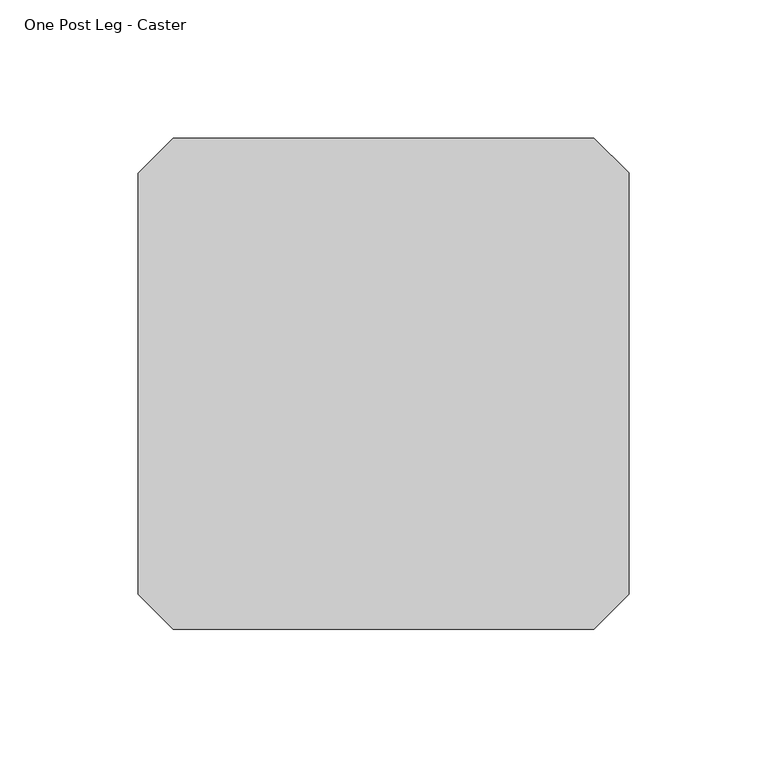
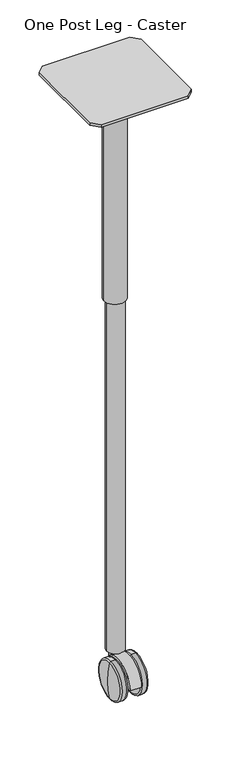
"""IFC4 building model written with IfcOpenShell, lengths in millimetres: furniture geometry, Steelcase - Groupwork - Table Leg - Post - Adjustable : One Post Leg - Caster."""

from ifc_helpers import new_model, si_unit, point, frame, frame_2d, origin, place, context, project, spatial, polyline, circle_curve, ellipse_curve, trimmed, segment, composite_curve, outline, extrude, source, transform, mapped, element, save
from ifc_brep_helpers import plane_surface, cylinder_surface, revolved_surface, advanced_brep


def one_post_leg_caster_7bd2f1b1(model_context):
    return source(origin(), model_context, "Body", "SolidModel", [
        extrude(outline(polyline([(88.8999907, -92.0423469), (76.2000028, -104.7423348), (-76.2000028, -104.7423348), (-88.9000032, -92.0423469), (-88.9000032, 60.3576588), (-76.2000028, 73.0576592), (76.2000028, 73.0576592), (88.8999907, 60.4556951), (88.8999907, -92.0423469)])), frame((0.0, 0.0, 1113.0939814), z_axis=(0.0, 0.0, 1.0), x_axis=(1.0, 0.0, 0.0)), (0.0, 0.0, 1.0), 4.5060186),
        extrude(outline(composite_curve([segment(trimmed(circle_curve(frame_2d((-0.2500277, -14.7678046)), 19.05), [point((-19.3000277, -14.7678046))], [point((18.7999723, -14.7678046))], False, "CARTESIAN"), True, "CONTINUOUS"), segment(trimmed(circle_curve(frame_2d((-0.2500277, -14.7678046)), 19.05), [point((18.7999723, -14.7678046))], [point((-19.3000277, -14.7678046))], False, "CARTESIAN"), True, "CONTINUOUS")], self_intersect=False), holes=[composite_curve([segment(trimmed(circle_curve(frame_2d((-0.1070578, -14.7678046)), 16.7347744), [point((-16.8418322, -14.7678046))], [point((16.6277167, -14.7678046))], True, "CARTESIAN"), True, "CONTINUOUS"), segment(trimmed(circle_curve(frame_2d((-0.1070578, -14.7678046)), 16.7347744), [point((16.6277167, -14.7678046))], [point((-16.8418322, -14.7678046))], True, "CARTESIAN"), True, "CONTINUOUS")], self_intersect=False)]), frame((0.0, 0.0, 718.439), z_axis=(0.0, 0.0, 1.0), x_axis=(1.0, 0.0, 0.0)), (0.0, 0.0, 1.0), 394.6549814),
        advanced_brep(
        [(-11.4827204, -39.9411002, 2.2405885), (-11.4827204, -39.9411002, 67.7519755), (-11.4827204, -39.9411002, 34.996282), (-13.6490633, -39.9411002, 0.0742455), (-13.6490633, -39.9411002, 69.9183184), (-21.5027885, -39.9411002, 0.0742455), (-21.5027885, -39.9411002, 69.9183184), (-24.0371277, -39.9411002, 1.9932216), (-24.0371277, -39.9411002, 67.9993423), (-28.027544, -39.9411002, 34.996282)],
        [
            (0, 1, circle_curve(frame((-11.4827204, -39.9411002, 34.996282), z_axis=(1.0, 0.0, 0.0), x_axis=(0.0, 0.0, 1.0)), 32.7556935)),
            (1, 2),
            (2, 0),
            (1, 0, circle_curve(frame((-11.4827204, -39.9411002, 34.996282), z_axis=(1.0, 0.0, 0.0), x_axis=(0.0, 0.0, 1.0)), 32.7556935)),
            (3, 4, circle_curve(frame((-13.6490633, -39.9411002, 34.996282), z_axis=(1.0, 0.0, 0.0), x_axis=(0.0, 0.0, 1.0)), 34.9220364)),
            (4, 1, circle_curve(frame((-13.6490633, -39.9411002, 67.7519755), z_axis=(0.0, 1.0, 0.0), x_axis=(1.0, 0.0, 0.0)), 2.1663429)),
            (0, 3, circle_curve(frame((-13.6490633, -39.9411002, 2.2405885), z_axis=(0.0, 1.0, 0.0), x_axis=(1.0, 0.0, 0.0)), 2.1663429)),
            (4, 3, circle_curve(frame((-13.6490633, -39.9411002, 34.996282), z_axis=(1.0, 0.0, 0.0), x_axis=(0.0, 0.0, 1.0)), 34.9220364)),
            (5, 6, circle_curve(frame((-21.5027885, -39.9411002, 34.996282), z_axis=(1.0, 0.0, 0.0), x_axis=(0.0, 0.0, 1.0)), 34.9220364)),
            (6, 4),
            (3, 5),
            (6, 5, circle_curve(frame((-21.5027885, -39.9411002, 34.996282), z_axis=(1.0, 0.0, 0.0), x_axis=(0.0, 0.0, 1.0)), 34.9220364)),
            (7, 8, circle_curve(frame((-24.0371277, -39.9411002, 34.996282), z_axis=(1.0, 0.0, 0.0), x_axis=(0.0, 0.0, 1.0)), 33.0030604)),
            (8, 6, circle_curve(frame((-21.5027885, -39.9411002, 67.285314), z_axis=(0.0, 1.0, 0.0), x_axis=(1.0, 0.0, 0.0)), 2.6330044)),
            (5, 7, circle_curve(frame((-21.5027885, -39.9411002, 2.7072499), z_axis=(0.0, 1.0, 0.0), x_axis=(1.0, 0.0, 0.0)), 2.6330044)),
            (8, 7, circle_curve(frame((-24.0371277, -39.9411002, 34.996282), z_axis=(1.0, 0.0, 0.0), x_axis=(0.0, 0.0, 1.0)), 33.0030604)),
            (9, 8, circle_curve(frame((80.0645768, -39.9411002, 38.6695822), z_axis=(0.0, 1.0, 0.0), x_axis=(1.0, 0.0, 0.0)), 108.1545178)),
            (7, 9, circle_curve(frame((80.0645768, -39.9411002, 31.3229818), z_axis=(0.0, 1.0, 0.0), x_axis=(1.0, 0.0, 0.0)), 108.1545178)),
        ],
        [
            plane_surface(frame((-11.4827204, -39.9411002, 34.996282), z_axis=(1.0, 0.0, 0.0), x_axis=(0.0, 0.0, 1.0))),
            revolved_surface(trimmed(ellipse_curve(frame((-13.6490633, -39.9411002, 67.7519755), z_axis=(0.0, -1.0, 0.0), x_axis=(1.0, 0.0, 0.0)), 2.1663429, 2.1663429), [point((-11.4827204, -39.9411002, 67.7519755))], [point((-13.6490633, -39.9411002, 69.9183184))], True, "CARTESIAN"), (-26.2760059, -39.9411002, 34.996282), (-1.0, 0.0, 0.0)),
            cylinder_surface(frame((-26.2760059, -39.9411002, 34.996282), z_axis=(-1.0, 0.0, 0.0), x_axis=(0.0, 0.0, 1.0)), 34.9220364),
            revolved_surface(trimmed(ellipse_curve(frame((-21.5027885, -39.9411002, 67.285314), z_axis=(0.0, -1.0, 0.0), x_axis=(1.0, 0.0, 0.0)), 2.6330044, 2.6330044), [point((-21.5027885, -39.9411002, 69.9183184))], [point((-24.0371277, -39.9411002, 67.9993423))], True, "CARTESIAN"), (-26.2760059, -39.9411002, 34.996282), (-1.0, 0.0, 0.0)),
            revolved_surface(trimmed(ellipse_curve(frame((80.0645768, -39.9411002, 38.6695822), z_axis=(0.0, -1.0, 0.0), x_axis=(1.0, 0.0, 0.0)), 108.1545178, 108.1545178), [point((-24.0371277, -39.9411002, 67.9993423))], [point((-28.027544, -39.9411002, 34.996282))], True, "CARTESIAN"), (-26.2760059, -39.9411002, 34.996282), (-1.0, 0.0, 0.0)),
        ],
        [
            (0, [[1, 2, 3]]),
            (0, [[4, -3, -2]]),
            (1, [[5, 6, -1, 7]]),
            (1, [[8, -7, -4, -6]]),
            (2, [[9, 10, -5, 11]]),
            (2, [[12, -11, -8, -10]]),
            (3, [[13, 14, -9, 15]]),
            (3, [[16, -15, -12, -14]]),
            (4, [[17, -13, 18]]),
            (4, [[-18, -16, -17]]),
        ],
    ),
        advanced_brep(
        [(24.0371277, -39.9411002, 1.9932216), (24.0371277, -39.9411002, 67.9993423), (28.027544, -39.9411002, 34.996282), (21.5027885, -39.9411002, 0.0742455), (21.5027885, -39.9411002, 69.9183184), (13.6490633, -39.9411002, 0.0742455), (13.6490633, -39.9411002, 69.9183184), (11.4827204, -39.9411002, 2.2405885), (11.4827204, -39.9411002, 67.7519755), (11.4827204, -39.9411002, 34.996282)],
        [
            (0, 1, circle_curve(frame((24.0371277, -39.9411002, 34.996282), z_axis=(1.0, 0.0, 0.0), x_axis=(0.0, 0.0, 1.0)), 33.0030604)),
            (1, 2, circle_curve(frame((-80.0645768, -39.9411002, 38.6695822), z_axis=(0.0, 1.0, 0.0), x_axis=(-1.0, 0.0, 0.0)), 108.1545178)),
            (2, 0, circle_curve(frame((-80.0645768, -39.9411002, 31.3229818), z_axis=(0.0, 1.0, 0.0), x_axis=(-1.0, 0.0, 0.0)), 108.1545178)),
            (1, 0, circle_curve(frame((24.0371277, -39.9411002, 34.996282), z_axis=(1.0, 0.0, 0.0), x_axis=(0.0, 0.0, 1.0)), 33.0030604)),
            (3, 4, circle_curve(frame((21.5027885, -39.9411002, 34.996282), z_axis=(1.0, 0.0, 0.0), x_axis=(0.0, 0.0, 1.0)), 34.9220364)),
            (4, 1, circle_curve(frame((21.5027885, -39.9411002, 67.285314), z_axis=(0.0, 1.0, 0.0), x_axis=(-1.0, 0.0, 0.0)), 2.6330044)),
            (0, 3, circle_curve(frame((21.5027885, -39.9411002, 2.7072499), z_axis=(0.0, 1.0, 0.0), x_axis=(-1.0, 0.0, 0.0)), 2.6330044)),
            (4, 3, circle_curve(frame((21.5027885, -39.9411002, 34.996282), z_axis=(1.0, 0.0, 0.0), x_axis=(0.0, 0.0, 1.0)), 34.9220364)),
            (5, 6, circle_curve(frame((13.6490633, -39.9411002, 34.996282), z_axis=(1.0, 0.0, 0.0), x_axis=(0.0, 0.0, 1.0)), 34.9220364)),
            (6, 4),
            (3, 5),
            (6, 5, circle_curve(frame((13.6490633, -39.9411002, 34.996282), z_axis=(1.0, 0.0, 0.0), x_axis=(0.0, 0.0, 1.0)), 34.9220364)),
            (7, 8, circle_curve(frame((11.4827204, -39.9411002, 34.996282), z_axis=(1.0, 0.0, 0.0), x_axis=(0.0, 0.0, 1.0)), 32.7556935)),
            (8, 6, circle_curve(frame((13.6490633, -39.9411002, 67.7519755), z_axis=(0.0, 1.0, 0.0), x_axis=(-1.0, 0.0, 0.0)), 2.1663429)),
            (5, 7, circle_curve(frame((13.6490633, -39.9411002, 2.2405885), z_axis=(0.0, 1.0, 0.0), x_axis=(-1.0, 0.0, 0.0)), 2.1663429)),
            (8, 7, circle_curve(frame((11.4827204, -39.9411002, 34.996282), z_axis=(1.0, 0.0, 0.0), x_axis=(0.0, 0.0, 1.0)), 32.7556935)),
            (9, 8),
            (7, 9),
        ],
        [
            revolved_surface(trimmed(ellipse_curve(frame((-80.0645768, -39.9411002, 38.6695822), z_axis=(0.0, -1.0, 0.0), x_axis=(-1.0, 0.0, 0.0)), 108.1545178, 108.1545178), [point((28.027544, -39.9411002, 34.996282))], [point((24.0371277, -39.9411002, 67.9993423))], True, "CARTESIAN"), (-26.2760059, -39.9411002, 34.996282), (-1.0, 0.0, 0.0)),
            revolved_surface(trimmed(ellipse_curve(frame((21.5027885, -39.9411002, 67.285314), z_axis=(0.0, -1.0, 0.0), x_axis=(-1.0, 0.0, 0.0)), 2.6330044, 2.6330044), [point((24.0371277, -39.9411002, 67.9993423))], [point((21.5027885, -39.9411002, 69.9183184))], True, "CARTESIAN"), (-26.2760059, -39.9411002, 34.996282), (-1.0, 0.0, 0.0)),
            cylinder_surface(frame((-26.2760059, -39.9411002, 34.996282), z_axis=(-1.0, 0.0, 0.0), x_axis=(0.0, 0.0, 1.0)), 34.9220364),
            revolved_surface(trimmed(ellipse_curve(frame((13.6490633, -39.9411002, 67.7519755), z_axis=(0.0, -1.0, 0.0), x_axis=(-1.0, 0.0, 0.0)), 2.1663429, 2.1663429), [point((13.6490633, -39.9411002, 69.9183184))], [point((11.4827204, -39.9411002, 67.7519755))], True, "CARTESIAN"), (-26.2760059, -39.9411002, 34.996282), (-1.0, 0.0, 0.0)),
            plane_surface(frame((11.4827204, -39.9411002, 34.996282), z_axis=(-1.0, 0.0, 0.0), x_axis=(0.0, 0.0, 1.0))),
        ],
        [
            (0, [[1, 2, 3]]),
            (0, [[4, -3, -2]]),
            (1, [[5, 6, -1, 7]]),
            (1, [[8, -7, -4, -6]]),
            (2, [[9, 10, -5, 11]]),
            (2, [[12, -11, -8, -10]]),
            (3, [[13, 14, -9, 15]]),
            (3, [[16, -15, -12, -14]]),
            (4, [[17, -13, 18]]),
            (4, [[-18, -16, -17]]),
        ],
    ),
        extrude(outline(composite_curve([segment(trimmed(circle_curve(frame_2d((-39.878, 33.5852125)), 37.5031), [point((-77.3811, 33.5852125))], [point((-2.3749, 33.5852125))], False, "CARTESIAN"), True, "CONTINUOUS"), segment(polyline([(-2.3749, 33.5852125), (-77.3811, 33.5852125)]), True, "CONTINUOUS")], self_intersect=False)), frame((-9.8317204, 0.0, 0.0), z_axis=(1.0, 0.0, 0.0), x_axis=(0.0, 1.0, 0.0)), (0.0, 0.0, 1.0), 19.685),
        advanced_brep(
        [(0.0, -25.7219599, 42.7546125), (0.0, -6.0280401, 42.7546125), (0.0, -15.875, 42.7546125), (0.0, -25.7219599, 93.5546125), (0.0, -6.0280401, 93.5546125), (0.0, -15.875, 93.5546125)],
        [
            (0, 1, circle_curve(frame((0.0, -15.875, 42.7546125), z_axis=(0.0, 0.0, -1.0), x_axis=(0.0, 1.0, 0.0)), 9.8469599)),
            (1, 2),
            (2, 0),
            (1, 0, circle_curve(frame((0.0, -15.875, 42.7546125), z_axis=(0.0, 0.0, -1.0), x_axis=(0.0, 1.0, 0.0)), 9.8469599)),
            (3, 4, circle_curve(frame((0.0, -15.875, 93.5546125), z_axis=(0.0, 0.0, -1.0), x_axis=(0.0, 1.0, 0.0)), 9.8469599)),
            (4, 1),
            (0, 3),
            (4, 3, circle_curve(frame((0.0, -15.875, 93.5546125), z_axis=(0.0, 0.0, -1.0), x_axis=(0.0, 1.0, 0.0)), 9.8469599)),
            (5, 4),
            (3, 5),
        ],
        [
            plane_surface(frame((0.0, -15.875, 42.7546125), z_axis=(0.0, 0.0, -1.0), x_axis=(0.0, 1.0, 0.0))),
            cylinder_surface(frame((0.0, -15.875, 92.8785885), z_axis=(0.0, 0.0, 1.0), x_axis=(0.0, 1.0, 0.0)), 9.8469599),
            plane_surface(frame((0.0, -15.875, 93.5546125), z_axis=(0.0, 0.0, 1.0), x_axis=(0.0, 1.0, 0.0))),
        ],
        [
            (0, [[1, 2, 3]]),
            (0, [[4, -3, -2]]),
            (1, [[5, 6, -1, 7]]),
            (1, [[8, -7, -4, -6]]),
            (2, [[9, -5, 10]]),
            (2, [[-10, -8, -9]]),
        ],
    ),
        extrude(outline(composite_curve([segment(trimmed(circle_curve(frame_2d((0.0, -15.7933259)), 15.24), [point((-15.24, -15.7933259))], [point((15.24, -15.7933259))], False, "CARTESIAN"), True, "CONTINUOUS"), segment(trimmed(circle_curve(frame_2d((0.0, -15.7933259)), 15.24), [point((15.24, -15.7933259))], [point((-15.24, -15.7933259))], False, "CARTESIAN"), True, "CONTINUOUS")], self_intersect=False), holes=[composite_curve([segment(trimmed(circle_curve(frame_2d((0.0, -15.7933259)), 13.7134307), [point((-13.7134307, -15.7933259))], [point((13.7134307, -15.7933259))], True, "CARTESIAN"), True, "CONTINUOUS"), segment(trimmed(circle_curve(frame_2d((0.0, -15.7933259)), 13.7134307), [point((13.7134307, -15.7933259))], [point((-13.7134307, -15.7933259))], True, "CARTESIAN"), True, "CONTINUOUS")], self_intersect=False)]), frame((0.0, 0.0, 71.6852125), z_axis=(0.0, 0.0, 1.0), x_axis=(1.0, 0.0, 0.0)), (0.0, 0.0, 1.0), 646.7537875),
    ])


if __name__ == "__main__":
    model = new_model("IFC4")
    model_context = context("Model", 3, world=origin())
    ifc_project = project(units=[si_unit("LENGTHUNIT", "METRE", prefix="MILLI")], contexts=[model_context])
    site = spatial("IfcSite", under=ifc_project)
    building = spatial("IfcBuilding", under=site)
    placement = place(None, origin())
    one_post_leg_caster_shape = one_post_leg_caster_7bd2f1b1(model_context)
    element("IfcFurniture", 1, ObjectType="Steelcase - Groupwork - Table Leg - Post - Adjustable : One Post Leg - Caster", at=placement, inside=building, context=model_context, shape_type="MappedRepresentation", body=[
        mapped(one_post_leg_caster_shape, transform((0.0, 0.0, 0.0), x_axis=(1.0, 0.0, 0.0), y_axis=(0.0, 1.0, 0.0), z_axis=(0.0, 0.0, 1.0))),
    ])
    save(model, "model.ifc")
